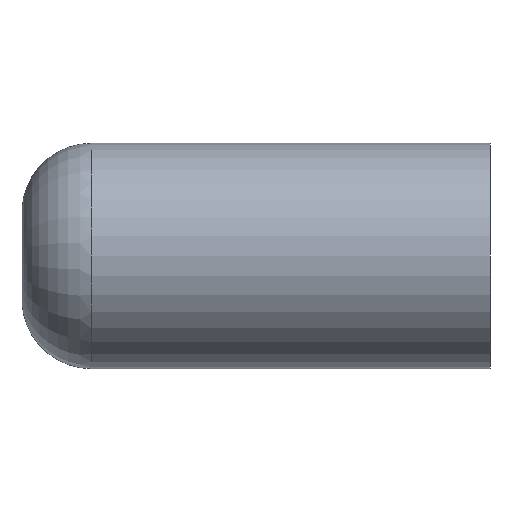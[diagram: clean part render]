
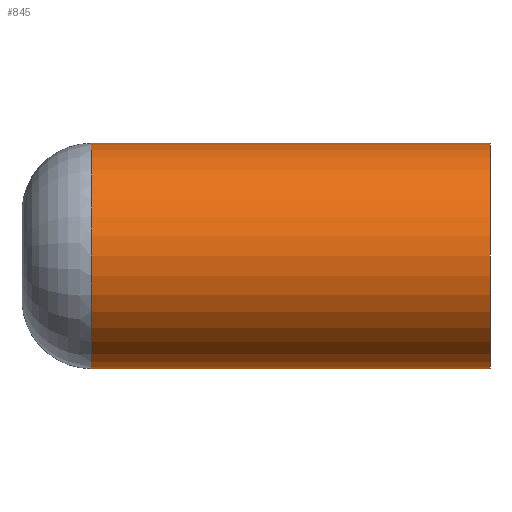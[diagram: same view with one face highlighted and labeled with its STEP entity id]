
A CAD part, left-side view. The second image highlights one B-rep face of the part: STEP entity #845.
In plain terms, the highlighted cylindrical face has radius 65 mm (diameter 130 mm), a partial arc.
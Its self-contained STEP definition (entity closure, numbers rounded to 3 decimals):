
#1 = CYLINDRICAL_SURFACE ( 'NONE', #1633, 65. ) ;
#82 = ORIENTED_EDGE ( 'NONE', *, *, #126, .F. ) ;
#87 = VERTEX_POINT ( 'NONE', #617 ) ;
#115 = EDGE_CURVE ( 'NONE', #1525, #1169, #698, .T. ) ;
#117 = DIRECTION ( 'NONE',  ( 0., 1., 0. ) ) ;
#126 = EDGE_CURVE ( 'NONE', #87, #250, #480, .T. ) ;
#129 = DIRECTION ( 'NONE',  ( 0., 1., 0. ) ) ;
#185 = ORIENTED_EDGE ( 'NONE', *, *, #1275, .F. ) ;
#209 = VECTOR ( 'NONE', #1848, 1000. ) ;
#250 = VERTEX_POINT ( 'NONE', #945 ) ;
#303 = EDGE_CURVE ( 'NONE', #87, #1525, #1546, .T. ) ;
#305 = DIRECTION ( 'NONE',  ( 0., 1., 0. ) ) ;
#322 = DIRECTION ( 'NONE',  ( 0., 0., 1. ) ) ;
#457 = ORIENTED_EDGE ( 'NONE', *, *, #115, .T. ) ;
#480 = LINE ( 'NONE', #769, #209 ) ;
#553 = ORIENTED_EDGE ( 'NONE', *, *, #303, .T. ) ;
#576 = EDGE_LOOP ( 'NONE', ( #82, #553, #457, #185 ) ) ;
#617 = CARTESIAN_POINT ( 'NONE',  ( 0., -65., -65. ) ) ;
#698 = LINE ( 'NONE', #746, #1931 ) ;
#742 = CARTESIAN_POINT ( 'NONE',  ( 0., 0., 0. ) ) ;
#746 = CARTESIAN_POINT ( 'NONE',  ( 0., 0., 65. ) ) ;
#769 = CARTESIAN_POINT ( 'NONE',  ( 0., 0., -65. ) ) ;
#821 = CARTESIAN_POINT ( 'NONE',  ( 0., 165., 65. ) ) ;
#827 = AXIS2_PLACEMENT_3D ( 'NONE', #1859, #933, #322 ) ;
#845 = ADVANCED_FACE ( 'NONE', ( #1178 ), #1, .T. ) ;
#933 = DIRECTION ( 'NONE',  ( 0., 1., 0. ) ) ;
#945 = CARTESIAN_POINT ( 'NONE',  ( 0., 165., -65. ) ) ;
#1094 = CARTESIAN_POINT ( 'NONE',  ( 0., -65., 65. ) ) ;
#1138 = CIRCLE ( 'NONE', #1888, 65. ) ;
#1169 = VERTEX_POINT ( 'NONE', #821 ) ;
#1178 = FACE_OUTER_BOUND ( 'NONE', #576, .T. ) ;
#1237 = DIRECTION ( 'NONE',  ( 0., 0., 1. ) ) ;
#1275 = EDGE_CURVE ( 'NONE', #250, #1169, #1138, .T. ) ;
#1372 = CARTESIAN_POINT ( 'NONE',  ( 0., 165., 0. ) ) ;
#1525 = VERTEX_POINT ( 'NONE', #1094 ) ;
#1546 = CIRCLE ( 'NONE', #827, 65. ) ;
#1633 = AXIS2_PLACEMENT_3D ( 'NONE', #742, #129, #1828 ) ;
#1828 = DIRECTION ( 'NONE',  ( 0., 0., 1. ) ) ;
#1848 = DIRECTION ( 'NONE',  ( 0., 1., 0. ) ) ;
#1859 = CARTESIAN_POINT ( 'NONE',  ( 0., -65., 0. ) ) ;
#1888 = AXIS2_PLACEMENT_3D ( 'NONE', #1372, #305, #1237 ) ;
#1931 = VECTOR ( 'NONE', #117, 1000. ) ;
